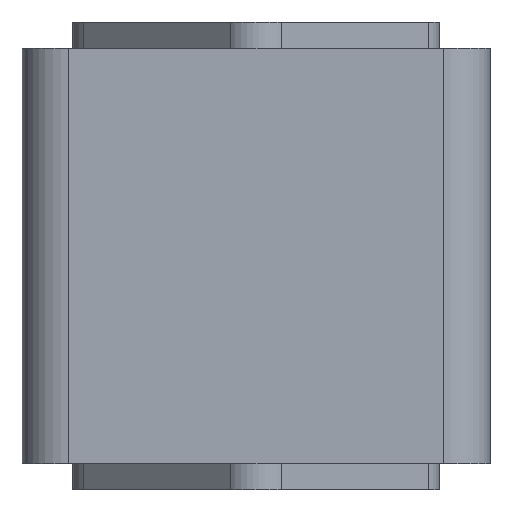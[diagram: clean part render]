
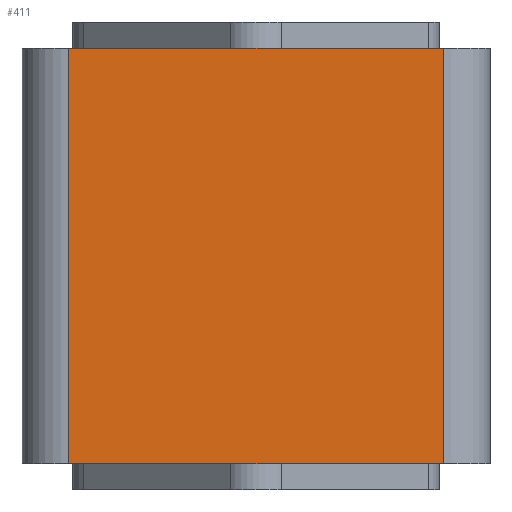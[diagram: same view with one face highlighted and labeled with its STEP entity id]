
A CAD part, front view. The second image highlights one B-rep face of the part: STEP entity #411.
In plain terms, the highlighted planar face has unit normal (0, -1, 0).
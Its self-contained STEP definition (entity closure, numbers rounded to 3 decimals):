
#346=CARTESIAN_POINT('',(18.,-22.5,40.0));
#347=VERTEX_POINT('',#346);
#355=CARTESIAN_POINT('',(18.,-22.5,0.0));
#356=VERTEX_POINT('',#355);
#357=CARTESIAN_POINT('',(18.,-22.5,0.0));
#358=DIRECTION('',(0.0,0.0,1.0));
#359=VECTOR('',#358,40.0);
#360=LINE('',#357,#359);
#361=EDGE_CURVE('',#356,#347,#360,.T.);
#381=CARTESIAN_POINT('',(18.,-22.5,0.0));
#382=DIRECTION('',(0.0,-1.0,0.0));
#383=DIRECTION('',(0.0,0.0,-1.0));
#384=AXIS2_PLACEMENT_3D('',#381,#382,#383);
#385=PLANE('',#384);
#386=CARTESIAN_POINT('',(-18.,-22.5,40.0));
#387=VERTEX_POINT('',#386);
#388=CARTESIAN_POINT('',(18.,-22.5,40.0));
#389=DIRECTION('',(-1.0,0.0,0.0));
#390=VECTOR('',#389,36.);
#391=LINE('',#388,#390);
#392=EDGE_CURVE('',#347,#387,#391,.T.);
#393=ORIENTED_EDGE('',*,*,#392,.T.);
#394=CARTESIAN_POINT('',(-18.,-22.5,0.0));
#395=VERTEX_POINT('',#394);
#396=CARTESIAN_POINT('',(-18.,-22.5,0.0));
#397=DIRECTION('',(0.0,0.0,1.0));
#398=VECTOR('',#397,40.0);
#399=LINE('',#396,#398);
#400=EDGE_CURVE('',#395,#387,#399,.T.);
#401=ORIENTED_EDGE('',*,*,#400,.F.);
#402=CARTESIAN_POINT('',(-18.,-22.5,0.0));
#403=DIRECTION('',(1.0,0.0,0.0));
#404=VECTOR('',#403,36.);
#405=LINE('',#402,#404);
#406=EDGE_CURVE('',#395,#356,#405,.T.);
#407=ORIENTED_EDGE('',*,*,#406,.T.);
#408=ORIENTED_EDGE('',*,*,#361,.T.);
#409=EDGE_LOOP('',(#393,#401,#407,#408));
#410=FACE_OUTER_BOUND('',#409,.T.);
#411=ADVANCED_FACE('',(#410),#385,.T.);
